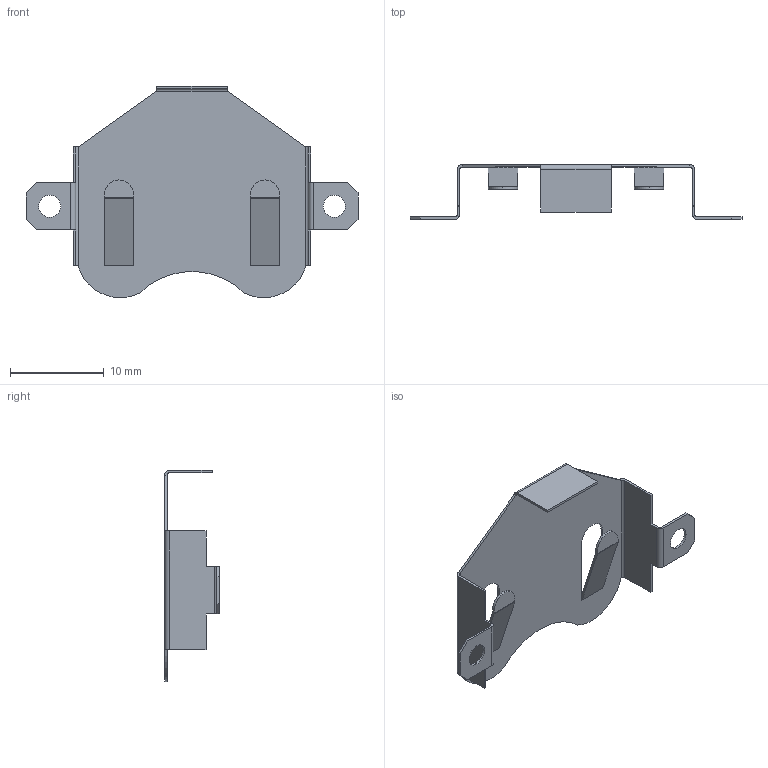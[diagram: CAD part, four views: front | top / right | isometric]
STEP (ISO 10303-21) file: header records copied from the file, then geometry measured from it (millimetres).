
FILE_DESCRIPTION (( 'STEP AP214' ), '1' );
FILE_NAME ('3088TR.STEP', '2013-05-06T18:33:05', ( 'Richard Maletta' ), ( '' ), 'SwSTEP 2.0', 'SolidWorks 2009', '' );
FILE_SCHEMA (( 'AUTOMOTIVE_DESIGN' ));
Length unit declared in the file: inch
Products named in the file (1): 3088TR
Bounding box: 35.51 x 5.84 x 22.61 mm (x, y, z)
Volume: 168.9 mm3; surface area: 1390.1 mm2
Topology: 1 solids, 1 shells, 97 faces, 262 edges, 168 vertices
Faces by surface type: plane 68, cylinder 29
Entity records: 3122 total; most frequent: CARTESIAN_POINT 528, ORIENTED_EDGE 524, DIRECTION 516, EDGE_CURVE 262, LINE 204, VECTOR 204, VERTEX_POINT 168, AXIS2_PLACEMENT_3D 156
